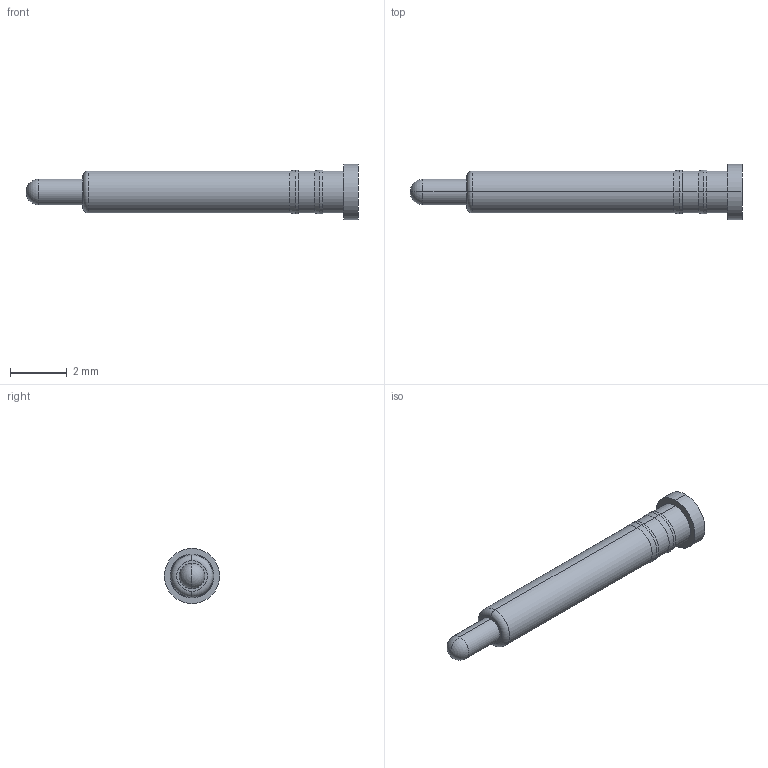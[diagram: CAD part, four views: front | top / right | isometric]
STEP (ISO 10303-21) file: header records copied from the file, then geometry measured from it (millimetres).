
FILE_DESCRIPTION((''),'2;1');
FILE_NAME('NC3505-01PA','2022-07-09T11:18:22',('Administrator'),(''),'CREO PARAMETRIC BY PTC INC, 2018400','CREO PARAMETRIC BY PTC INC, 2018400','');
FILE_SCHEMA(('CONFIG_CONTROL_DESIGN'));
Length unit declared in the file: millimetre
Products named in the file (1): NC3505-01PA
Bounding box: 11.7 x 1.95 x 1.95 mm (x, y, z)
Volume: 18.5 mm3; surface area: 56.8 mm2
Topology: 1 solids, 1 shells, 27 faces, 54 edges, 31 vertices
Faces by surface type: cylinder 14, plane 5, cone 4, torus 2, sphere 2
Entity records: 730 total; most frequent: DIRECTION 140, CARTESIAN_POINT 110, ORIENTED_EDGE 104, AXIS2_PLACEMENT_3D 61, EDGE_CURVE 52, CIRCLE 34, VERTEX_POINT 31, EDGE_LOOP 31
